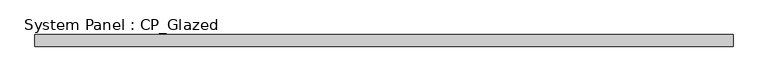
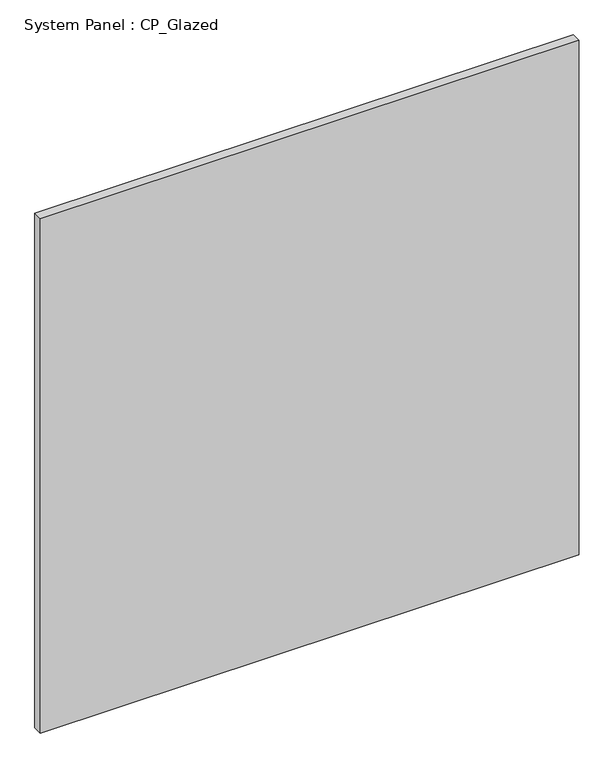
"""IFC4 building model written with IfcOpenShell, lengths in millimetres: plate geometry, System Panel : CP_Glazed."""

import ifcopenshell
import ifcopenshell.guid

model = None  # the IFC model being written
_history = None  # IfcOwnerHistory: only IFC2X3 demands one
_inside = {}  # id of a spatial element -> (the spatial element, [elements in it])
_under = {}  # id of a project, library or spatial element -> (it, [spatial elements below it])
_declared = {}  # id of a project -> (the project, [libraries it declares])
_typed = {}  # id of a type object -> (the type object, [elements of that type])
_made_of = {}  # id of a material, layer set ... -> (it, [elements and type objects made of it])


def new_model(schema):
    """Start an empty IFC model of exactly this schema.

    Asked for "IFC4X3", IfcOpenShell would pick the latest addendum, in which some entities
    have other attributes; the version numbers below select the first issue.
    IFC2X3 requires an IfcOwnerHistory on every rooted entity: one is made here for all.
    """
    global model, _history
    if schema == "IFC4X3":
        model = ifcopenshell.file(schema_version=(4, 3, 0, 0))
    else:
        model = ifcopenshell.file(schema=schema)
    _inside.clear()
    _under.clear()
    _declared.clear()
    _typed.clear()
    _made_of.clear()
    _history = None
    if model.schema == "IFC2X3":
        org = make("IfcOrganization", Name="unknown")
        user = make(
            "IfcPersonAndOrganization",
            ThePerson=make("IfcPerson", FamilyName="unknown"),
            TheOrganization=org,
        )
        app = make(
            "IfcApplication",
            ApplicationDeveloper=org,
            Version="unknown",
            ApplicationFullName="unknown",
            ApplicationIdentifier="unknown",
        )
        _history = make(
            "IfcOwnerHistory",
            OwningUser=user,
            OwningApplication=app,
            ChangeAction="ADDED",
            CreationDate=0,
        )
    return model


def make(cls, **values):
    """One entity of the class cls with the attributes given. An attribute that is None is left unset."""
    return model.create_entity(
        cls, **{name: value for name, value in values.items() if value is not None}
    )


def rooted(cls, **values):
    """An entity with a GlobalId (a new one), such as an element, a storey or a relation."""
    return make(cls, GlobalId=ifcopenshell.guid.new(), OwnerHistory=_history, **values)


def si_unit(unit_type, name, prefix=None):
    """IfcSIUnit, for example si_unit("LENGTHUNIT", "METRE", prefix="MILLI")."""
    return make("IfcSIUnit", UnitType=unit_type, Prefix=prefix, Name=name)


def assignment(units):
    """IfcUnitAssignment: the units of a project."""
    return None if units is None else make("IfcUnitAssignment", Units=units)


def point(xyz):
    """IfcCartesianPoint."""
    return None if xyz is None else make("IfcCartesianPoint", Coordinates=xyz)


def direction(xyz):
    """IfcDirection."""
    return None if xyz is None else make("IfcDirection", DirectionRatios=xyz)


def frame(location, z_axis=None, x_axis=None):
    """IfcAxis2Placement3D, a coordinate frame: its origin and axes. An axis left out is left unset."""
    return make(
        "IfcAxis2Placement3D",
        Location=point(location),
        Axis=direction(z_axis),
        RefDirection=direction(x_axis),
    )


def origin():
    """The frame at (0, 0, 0) with its axes left unset."""
    return frame((0.0, 0.0, 0.0))


def origin_with_axes():
    """The frame at (0, 0, 0) with the z axis (0, 0, 1) and the x axis (1, 0, 0) written out."""
    return frame((0.0, 0.0, 0.0), z_axis=(0.0, 0.0, 1.0), x_axis=(1.0, 0.0, 0.0))


def place(relative_to, where):
    """IfcLocalPlacement: puts the frame where relative to a parent placement (None: the world)."""
    return make(
        "IfcLocalPlacement", PlacementRelTo=relative_to, RelativePlacement=where
    )


def context(
    kind, dimensions, precision=None, world=None, true_north=None, identifier=None
):
    """IfcGeometricRepresentationContext, for example the 3D "Model" context."""
    return make(
        "IfcGeometricRepresentationContext",
        ContextIdentifier=identifier,
        ContextType=kind,
        CoordinateSpaceDimension=dimensions,
        Precision=precision,
        WorldCoordinateSystem=world,
        TrueNorth=true_north,
    )


def project(units=None, contexts=None):
    """IfcProject with its units and contexts."""
    return rooted(
        "IfcProject",
        Name="project",
        RepresentationContexts=contexts,
        UnitsInContext=assignment(units),
    )


def spatial(cls, under=None, at=None, **own):
    """A site, building, storey or space (cls), placed at a placement, below another one or the project."""
    s = rooted(cls, ObjectPlacement=at, **own)
    if under is not None:
        _under.setdefault(under.id(), (under, []))[1].append(s)
    return s


def polyline(points):
    """IfcPolyline through the points."""
    return make("IfcPolyline", Points=[point(p) for p in points])


def outline(outer, holes=None, kind="AREA"):
    """IfcArbitraryClosedProfileDef: a profile drawn as a closed curve; with holes, ...WithVoids."""
    if holes is None:
        return make("IfcArbitraryClosedProfileDef", ProfileType=kind, OuterCurve=outer)
    return make(
        "IfcArbitraryProfileDefWithVoids",
        ProfileType=kind,
        OuterCurve=outer,
        InnerCurves=holes,
    )


def extrude(swept, where, along, depth):
    """IfcExtrudedAreaSolid: the profile swept, set in the frame where, extruded along a direction by depth."""
    return make(
        "IfcExtrudedAreaSolid",
        SweptArea=swept,
        Position=where,
        ExtrudedDirection=direction(along),
        Depth=depth,
    )


def shape(context_of_items, identifier, shape_type, items):
    """IfcShapeRepresentation: the items that make up one representation, for example the "Body"."""
    return make(
        "IfcShapeRepresentation",
        ContextOfItems=context_of_items,
        RepresentationIdentifier=identifier,
        RepresentationType=shape_type,
        Items=items,
    )


def source(mapping_origin, context_of_items, identifier, shape_type, items):
    """IfcRepresentationMap: a shape defined once, which mapped items show again and again."""
    return make(
        "IfcRepresentationMap",
        MappingOrigin=mapping_origin,
        MappedRepresentation=shape(context_of_items, identifier, shape_type, items),
    )


def transform(
    local_origin,
    x_axis=None,
    y_axis=None,
    z_axis=None,
    scale=None,
    scale2=None,
    scale3=None,
    uniform=True,
):
    """IfcCartesianTransformationOperator3D, or its non-uniform kind. x_axis, y_axis, z_axis: its Axis1, 2, 3."""
    if uniform:
        return make(
            "IfcCartesianTransformationOperator3D",
            Axis1=direction(x_axis),
            Axis2=direction(y_axis),
            LocalOrigin=point(local_origin),
            Scale=scale,
            Axis3=direction(z_axis),
        )
    return make(
        "IfcCartesianTransformationOperator3DnonUniform",
        Axis1=direction(x_axis),
        Axis2=direction(y_axis),
        LocalOrigin=point(local_origin),
        Scale=scale,
        Axis3=direction(z_axis),
        Scale2=scale2,
        Scale3=scale3,
    )


def mapped(mapping_source, mapping_target):
    """IfcMappedItem: shows the shape of a source again, moved by a transform."""
    return make(
        "IfcMappedItem", MappingSource=mapping_source, MappingTarget=mapping_target
    )


def made_of(thing, what):
    """Note that an element or type object is made of a material, layer set ...; save() writes the relation."""
    if what is not None:
        _made_of.setdefault(what.id(), (what, []))[1].append(thing)
    return thing


def element(
    cls,
    number,
    at=None,
    inside=None,
    cuts=None,
    type_object=None,
    material=None,
    context=None,
    identifier="Body",
    shape_type=None,
    held_by="IfcProductDefinitionShape",
    body=None,
    shapes=None,
    **own,
):
    """One element of the class cls, such as IfcWall. Its Tag is "e" and its number.

    at: its placement. inside: the storey or other place that contains it. cuts: it is an
    opening in that element (IfcRelVoidsElement). A single representation is given by context,
    identifier, shape_type and body (its items); several are given by shapes. held_by: the class
    of the entity that holds the representations. save() writes the other relations.
    """
    e = rooted(cls, Tag="e%d" % number, ObjectPlacement=at, **own)
    if body is not None:
        shapes = [shape(context, identifier, shape_type, body)]
    if shapes is not None:
        e.Representation = make(held_by, Representations=shapes)
    if inside is not None:
        _inside.setdefault(inside.id(), (inside, []))[1].append(e)
    if cuts is not None:
        rooted(
            "IfcRelVoidsElement", RelatingBuildingElement=cuts, RelatedOpeningElement=e
        )
    if type_object is not None:
        _typed.setdefault(type_object.id(), (type_object, []))[1].append(e)
    return made_of(e, material)


def aggregate(whole, parts):
    """IfcRelAggregates: a whole, such as a stair, and the parts it consists of."""
    return rooted("IfcRelAggregates", RelatingObject=whole, RelatedObjects=parts)


def save(model, path):
    """Write the relations noted so far, then the file.

    IfcRelAggregates (storeys below a building ...), IfcRelContainedInSpatialStructure (elements
    in a storey), IfcRelDefinesByType, IfcRelAssociatesMaterial and IfcRelDeclares: one each for
    every whole, place, type object, material and project.
    """
    for whole, parts in _under.values():
        aggregate(whole, parts)
    for where, things in _inside.values():
        rooted(
            "IfcRelContainedInSpatialStructure",
            RelatedElements=things,
            RelatingStructure=where,
        )
    for kind, things in _typed.values():
        rooted("IfcRelDefinesByType", RelatedObjects=things, RelatingType=kind)
    for what, things in _made_of.values():
        rooted("IfcRelAssociatesMaterial", RelatedObjects=things, RelatingMaterial=what)
    for by, libraries in _declared.values():
        rooted("IfcRelDeclares", RelatingContext=by, RelatedDefinitions=libraries)
    model.write(path)


def system_panel_cp_glazed_2ab3852d(model_context):
    return source(origin(), model_context, "Body", "SweptSolid", [
        extrude(outline(polyline([(733.425, -44.45), (-733.425, -44.45), (-733.425, -19.05), (733.425, -19.05), (733.425, -44.45)])), origin_with_axes(), (0.0, 0.0, 1.0), 1479.55),
    ])


if __name__ == "__main__":
    model = new_model("IFC4")
    model_context = context("Model", 3, world=origin())
    ifc_project = project(units=[si_unit("LENGTHUNIT", "METRE", prefix="MILLI")], contexts=[model_context])
    site = spatial("IfcSite", under=ifc_project)
    building = spatial("IfcBuilding", under=site)
    placement = place(None, origin())
    system_panel_cp_glazed_shape = system_panel_cp_glazed_2ab3852d(model_context)
    element("IfcPlate", 1, ObjectType="System Panel : CP_Glazed", at=placement, inside=building, context=model_context, shape_type="MappedRepresentation", body=[
        mapped(system_panel_cp_glazed_shape, transform((0.0, 0.0, 0.0), x_axis=(1.0, 0.0, 0.0), y_axis=(0.0, 1.0, 0.0), z_axis=(0.0, 0.0, 1.0))),
    ])
    save(model, "model.ifc")
